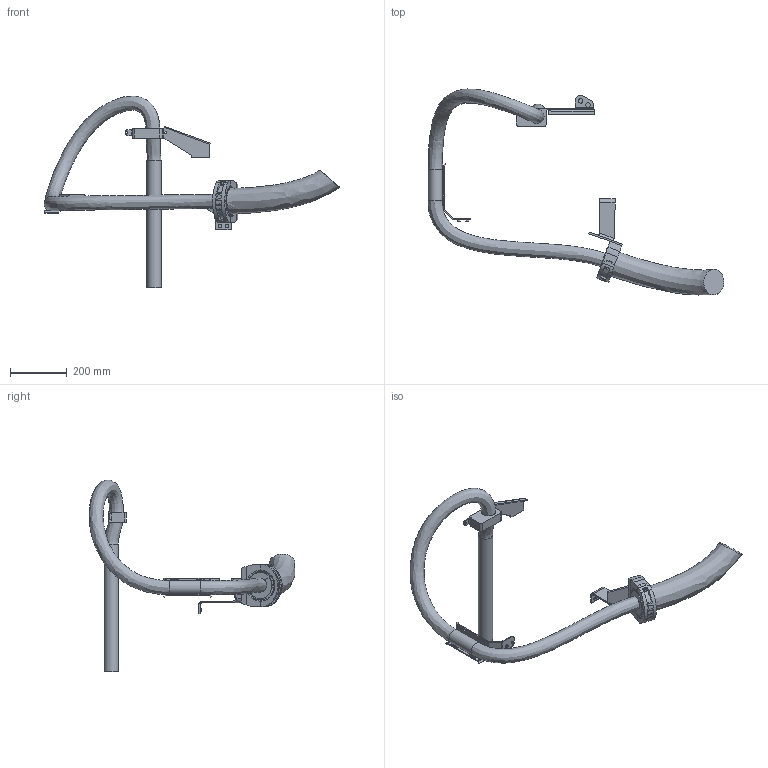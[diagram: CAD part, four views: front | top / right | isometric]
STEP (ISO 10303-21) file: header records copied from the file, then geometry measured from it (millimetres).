
FILE_DESCRIPTION (( 'STEP AP214' ), '1' );
FILE_NAME ('IRB6750S-ALL-OC_00_LINK01_CABLE.step', '2026-05-13T05:39:37', ( '' ), ( '' ), 'SwSTEP 2.0', 'SolidWorks 2024', '' );
FILE_SCHEMA (( 'AUTOMOTIVE_DESIGN' ));
Length unit declared in the file: millimetre
Products named in the file (1): IRB6750S-ALL-OC_00_LINK01_CABLE
Bounding box: 1041.53 x 725.1 x 675.12 mm (x, y, z)
Volume: 7691643.1 mm3; surface area: 629042.8 mm2
Topology: 1 solids, 2 shells, 329 faces, 850 edges, 540 vertices
Faces by surface type: plane 218, cylinder 92, bspline 10, sphere 5, cone 4
Full cylindrical faces by diameter (mm): 6 x2, 7.5 x2, 10 x2, 10.22 x2, 12 x2, 16 x2, 50 x1
Entity records: 17838 total; most frequent: CARTESIAN_POINT 6376, ORIENTED_EDGE 1642, DIRECTION 1563, EDGE_CURVE 821, VERTEX_POINT 528, LINE 527, VECTOR 527, AXIS2_PLACEMENT_3D 518
